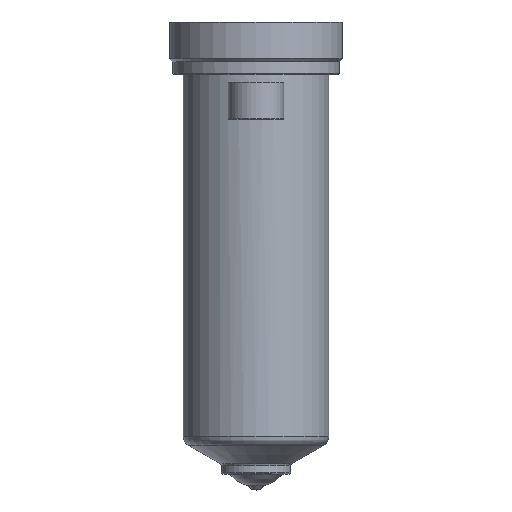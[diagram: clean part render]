
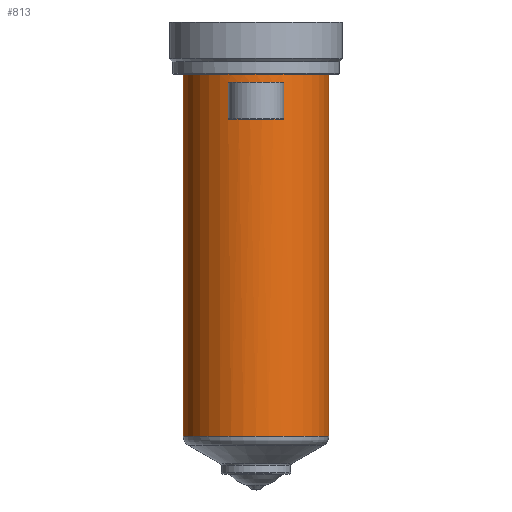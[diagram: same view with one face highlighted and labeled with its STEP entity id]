
A CAD part, top view. The second image highlights one B-rep face of the part: STEP entity #813.
In plain terms, the highlighted cylindrical face has radius 21 mm (diameter 42 mm), a partial arc.
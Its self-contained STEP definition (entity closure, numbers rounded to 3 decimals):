
#199=DIRECTION('',(0.,-1.,0.));
#200=VECTOR('',#199,104.528);
#201=CARTESIAN_POINT('',(21.,0.,0.));
#202=LINE('',#201,#200);
#203=CARTESIAN_POINT('',(0.,-104.528,0.));
#204=DIRECTION('',(0.,1.,0.));
#205=DIRECTION('',(-1.,0.,0.));
#206=AXIS2_PLACEMENT_3D('',#203,#204,#205);
#208=DIRECTION('',(0.,1.,0.));
#209=VECTOR('',#208,104.528);
#210=CARTESIAN_POINT('',(-21.,-104.528,0.));
#211=LINE('',#210,#209);
#212=CARTESIAN_POINT('',(0.,0.,0.));
#213=DIRECTION('',(0.,1.,0.));
#214=DIRECTION('',(-1.,0.,0.));
#215=AXIS2_PLACEMENT_3D('',#212,#213,#214);
#379=DIRECTION('',(0.,-1.,0.));
#380=VECTOR('',#379,10.5);
#381=CARTESIAN_POINT('',(-8.,-2.5,19.416));
#382=LINE('',#381,#380);
#383=CARTESIAN_POINT('',(0.,-13.,0.));
#384=DIRECTION('',(0.,1.,0.));
#385=DIRECTION('',(-0.381,0.,0.925));
#386=AXIS2_PLACEMENT_3D('',#383,#384,#385);
#409=CARTESIAN_POINT('',(0.,-2.5,0.));
#410=DIRECTION('',(0.,-1.,0.));
#411=DIRECTION('',(0.381,0.,0.925));
#412=AXIS2_PLACEMENT_3D('',#409,#410,#411);
#427=DIRECTION('',(0.,-1.,0.));
#428=VECTOR('',#427,10.5);
#429=CARTESIAN_POINT('',(8.,-2.5,19.416));
#430=LINE('',#429,#428);
#488=CARTESIAN_POINT('',(-21.,0.,0.));
#489=CARTESIAN_POINT('',(21.,0.,0.));
#490=VERTEX_POINT('',#488);
#491=VERTEX_POINT('',#489);
#500=CARTESIAN_POINT('',(-8.,-2.5,19.416));
#501=VERTEX_POINT('',#500);
#502=CARTESIAN_POINT('',(8.,-2.5,19.416));
#503=VERTEX_POINT('',#502);
#540=CARTESIAN_POINT('',(21.,-104.528,0.));
#541=VERTEX_POINT('',#540);
#550=CARTESIAN_POINT('',(-21.,-104.528,0.));
#551=VERTEX_POINT('',#550);
#572=CARTESIAN_POINT('',(-8.,-13.,19.416));
#573=CARTESIAN_POINT('',(8.,-13.,19.416));
#574=VERTEX_POINT('',#572);
#575=VERTEX_POINT('',#573);
#791=CARTESIAN_POINT('',(0.,16.4,0.));
#792=DIRECTION('',(0.,-1.,0.));
#793=DIRECTION('',(-1.,0.,0.));
#794=AXIS2_PLACEMENT_3D('',#791,#792,#793);
#795=CYLINDRICAL_SURFACE('',#794,21.);
#796=ORIENTED_EDGE('',*,*,#785,.T.);
#798=ORIENTED_EDGE('',*,*,#797,.F.);
#799=ORIENTED_EDGE('',*,*,#781,.T.);
#800=ORIENTED_EDGE('',*,*,#771,.T.);
#801=EDGE_LOOP('',(#796,#798,#799,#800));
#802=FACE_OUTER_BOUND('',#801,.F.);
#804=ORIENTED_EDGE('',*,*,#803,.T.);
#806=ORIENTED_EDGE('',*,*,#805,.T.);
#808=ORIENTED_EDGE('',*,*,#807,.F.);
#810=ORIENTED_EDGE('',*,*,#809,.T.);
#811=EDGE_LOOP('',(#804,#806,#808,#810));
#812=FACE_BOUND('',#811,.F.);
#813=ADVANCED_FACE('',(#802,#812),#795,.T.);
#207=CIRCLE('',#206,21.);
#216=CIRCLE('',#215,21.);
#387=CIRCLE('',#386,21.);
#413=CIRCLE('',#412,21.);
#771=EDGE_CURVE('',#490,#491,#216,.T.);
#781=EDGE_CURVE('',#551,#490,#211,.T.);
#785=EDGE_CURVE('',#491,#541,#202,.T.);
#797=EDGE_CURVE('',#551,#541,#207,.T.);
#803=EDGE_CURVE('',#501,#574,#382,.T.);
#805=EDGE_CURVE('',#574,#575,#387,.T.);
#807=EDGE_CURVE('',#503,#575,#430,.T.);
#809=EDGE_CURVE('',#503,#501,#413,.T.);
